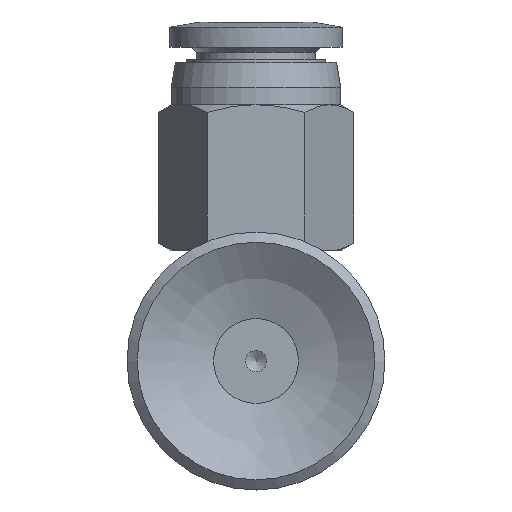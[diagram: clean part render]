
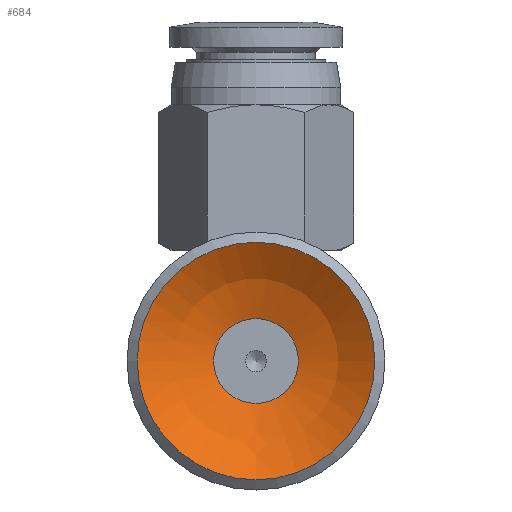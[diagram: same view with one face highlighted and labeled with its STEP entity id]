
A CAD part, front view. The second image highlights one B-rep face of the part: STEP entity #684.
In plain terms, the highlighted spherical face has radius 11.5 mm.
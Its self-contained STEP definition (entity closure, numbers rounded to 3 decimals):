
#684=ADVANCED_FACE('',(#1186,#1187),#1188,.F.);
#1186=FACE_OUTER_BOUND('',#1828,.T.);
#1187=FACE_OUTER_BOUND('',#1829,.T.);
#1188=SPHERICAL_SURFACE('',#1830,11.5);
#1828=EDGE_LOOP('',(#3441));
#1829=EDGE_LOOP('',(#3442));
#1830=AXIS2_PLACEMENT_3D('',#3443,#3444,#3445);
#3441=ORIENTED_EDGE('',*,*,#4430,.T.);
#3442=ORIENTED_EDGE('',*,*,#4431,.F.);
#3443=CARTESIAN_POINT('',(0.001,9.494,-22.735));
#3444=DIRECTION('',(0.0,0.,-1.0));
#3445=DIRECTION('',(1.0,0.0,0.0));
#4430=EDGE_CURVE('',#5202,#5202,#5203,.T.);
#4431=EDGE_CURVE('',#5204,#5204,#5205,.T.);
#5202=VERTEX_POINT('',#7101);
#5203=CIRCLE('',#7102,7.0);
#5204=VERTEX_POINT('',#7103);
#5205=CIRCLE('',#7104,2.5);
#7101=CARTESIAN_POINT('',(0.001,16.494,-13.611));
#7102=AXIS2_PLACEMENT_3D('',#8276,#8277,#8278);
#7103=CARTESIAN_POINT('',(0.001,11.994,-11.51));
#7104=AXIS2_PLACEMENT_3D('',#8279,#8280,#8281);
#8276=CARTESIAN_POINT('',(0.001,9.494,-13.611));
#8277=DIRECTION('',(0.0,0.,-1.0));
#8278=DIRECTION('',(0.0,1.0,0.));
#8279=CARTESIAN_POINT('',(0.001,9.494,-11.51));
#8280=DIRECTION('',(0.0,0.,-1.0));
#8281=DIRECTION('',(0.0,1.0,0.));
